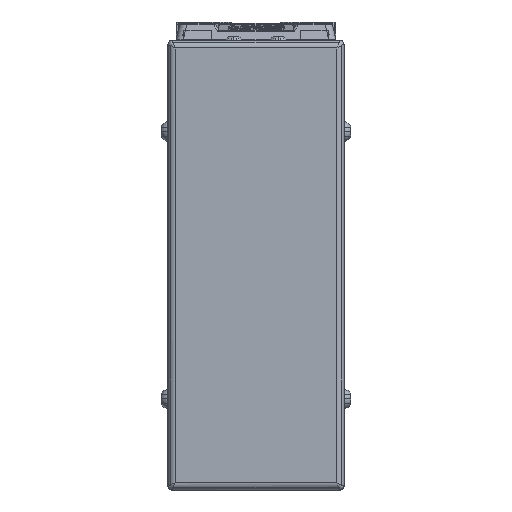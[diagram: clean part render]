
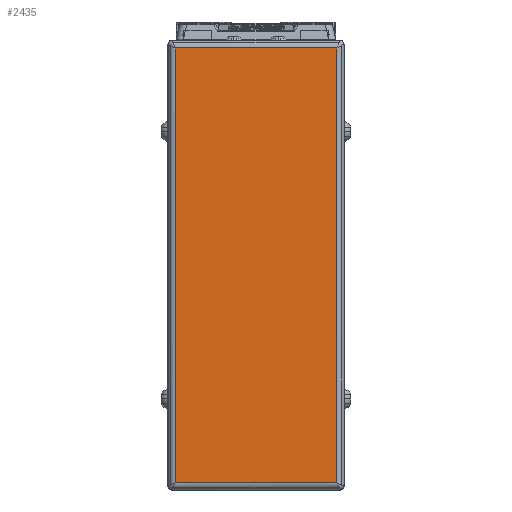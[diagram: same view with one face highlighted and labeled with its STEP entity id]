
A CAD part, left-side view. The second image highlights one B-rep face of the part: STEP entity #2435.
In plain terms, the highlighted planar face has unit normal (-1, 0, 0).
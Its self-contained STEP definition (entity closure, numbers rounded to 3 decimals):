
#2435=ADVANCED_FACE('',(#6230),#6231,.T.);
#6230=FACE_OUTER_BOUND('',#11899,.T.);
#6231=PLANE('',#11900);
#11899=EDGE_LOOP('',(#21450,#21451,#21452,#21453));
#11900=AXIS2_PLACEMENT_3D('',#21454,#21455,#21456);
#21450=ORIENTED_EDGE('',*,*,#36063,.F.);
#21451=ORIENTED_EDGE('',*,*,#36064,.F.);
#21452=ORIENTED_EDGE('',*,*,#35114,.F.);
#21453=ORIENTED_EDGE('',*,*,#36065,.F.);
#21454=CARTESIAN_POINT('',(-48.,0.,-42.5));
#21455=DIRECTION('',(-1.0,0.,0.));
#21456=DIRECTION('',(0.,0.,1.0));
#35114=EDGE_CURVE('',#41484,#41486,#41487,.T.);
#36063=EDGE_CURVE('',#43108,#43109,#43110,.T.);
#36064=EDGE_CURVE('',#41486,#43108,#43111,.T.);
#36065=EDGE_CURVE('',#43109,#41484,#43112,.T.);
#41484=VERTEX_POINT('',#50872);
#41486=VERTEX_POINT('',#50874);
#41487=LINE('',#50875,#50876);
#43108=VERTEX_POINT('',#53209);
#43109=VERTEX_POINT('',#53210);
#43110=LINE('',#53211,#53212);
#43111=LINE('',#53213,#53214);
#43112=LINE('',#53215,#53216);
#50872=CARTESIAN_POINT('',(-48.,-21.7,-101.0));
#50874=CARTESIAN_POINT('',(-48.,21.7,-101.0));
#50875=CARTESIAN_POINT('',(-48.,0.,-101.0));
#50876=VECTOR('',#63330,10.0);
#53209=CARTESIAN_POINT('',(-48.,21.7,16.));
#53210=CARTESIAN_POINT('',(-48.,-21.7,16.));
#53211=CARTESIAN_POINT('',(-48.,0.,16.));
#53212=VECTOR('',#64638,10.0);
#53213=CARTESIAN_POINT('',(-48.,21.7,-42.5));
#53214=VECTOR('',#64639,10.0);
#53215=CARTESIAN_POINT('',(-48.,-21.7,-42.5));
#53216=VECTOR('',#64640,10.0);
#63330=DIRECTION('',(0.,1.0,0.));
#64638=DIRECTION('',(0.,-1.0,0.));
#64639=DIRECTION('',(0.,0.,1.0));
#64640=DIRECTION('',(0.,0.,-1.0));
